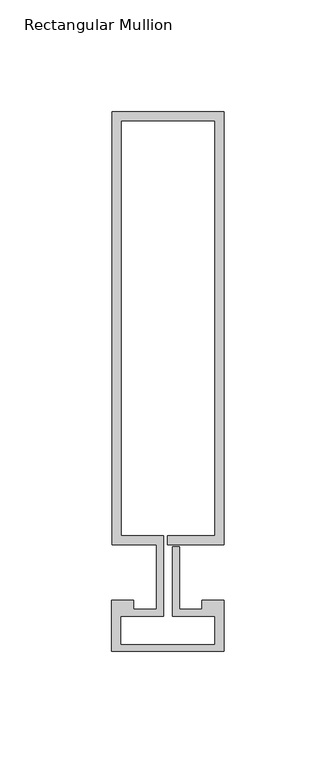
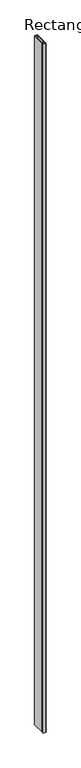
"""IFC4 building model written with IfcOpenShell, lengths in millimetres: member geometry, Rectangular Mullion : Reynaers_CW-50_Mullion-Transom_Horizontal_193.4mm_Facecap-02C."""

from ifc_helpers import new_model, si_unit, frame, origin, place, context, project, spatial, polyline, outline, extrude, source, transform, mapped, element, save


def rectangular_mullion_fe6175aa(model_context):
    return source(origin(), model_context, "Body", "SweptSolid", [
        extrude(outline(polyline([(-24.8004059, 205.9), (25.1995941, 205.9), (25.1995941, 12.5), (0.0, 12.5), (0.0, 16.5), (21.1995941, 16.5), (21.1995941, 201.9), (-20.8004059, 201.9), (-20.8004059, 16.5), (-1.9004059, 16.5), (-1.9004059, -19.5), (-20.994845, -19.5), (-20.994845, -32.2191338), (21.1995941, -32.2191338), (21.1995941, -19.5), (2.2995941, -19.5), (2.2995941, 11.5), (5.2995941, 11.5), (5.2995941, -16.5), (15.2996495, -16.5), (15.2996495, -12.5), (25.1995941, -12.5), (25.1995941, -35.3), (-24.994845, -35.3), (-24.994845, -12.5), (-15.2996495, -12.5), (-15.2996495, -16.5), (-4.9004059, -16.5), (-4.9004059, 12.5), (-24.8004059, 12.5), (-24.8004059, 205.9)])), frame((0.0, 0.0, -12000.0), z_axis=(0.0, 0.0, 1.0), x_axis=(1.0, 0.0, 0.0)), (0.0, 0.0, 1.0), 12000.0),
    ])


if __name__ == "__main__":
    model = new_model("IFC4")
    model_context = context("Model", 3, world=origin())
    ifc_project = project(units=[si_unit("LENGTHUNIT", "METRE", prefix="MILLI")], contexts=[model_context])
    site = spatial("IfcSite", under=ifc_project)
    building = spatial("IfcBuilding", under=site)
    placement = place(None, origin())
    rectangular_mullion_shape = rectangular_mullion_fe6175aa(model_context)
    element("IfcMember", 1, ObjectType="Rectangular Mullion : Reynaers_CW-50_Mullion-Transom_Horizontal_193.4mm_Facecap-02C", at=placement, inside=building, context=model_context, shape_type="MappedRepresentation", body=[
        mapped(rectangular_mullion_shape, transform((0.0, 0.0, 0.0), x_axis=(1.0, 0.0, 0.0), y_axis=(0.0, 1.0, 0.0), z_axis=(0.0, 0.0, 1.0))),
    ])
    save(model, "model.ifc")
